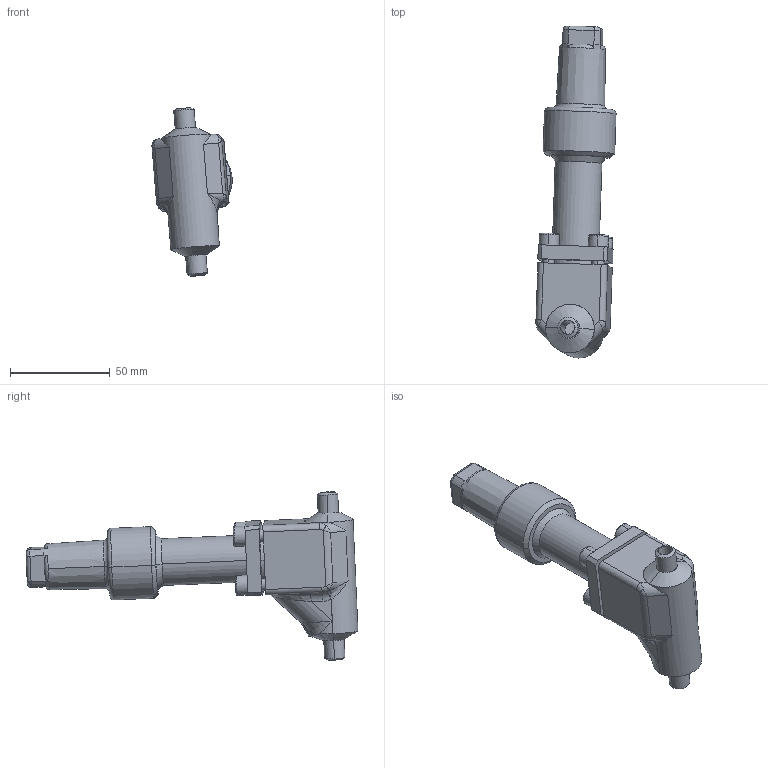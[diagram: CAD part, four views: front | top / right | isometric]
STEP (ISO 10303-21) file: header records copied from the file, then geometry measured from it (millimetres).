
FILE_DESCRIPTION (( 'STEP AP214' ), '1' );
FILE_NAME ('RVAK97300-DN006_R1_PS40.STEP', '2006-05-02T08:32:18', ( 'Herr Grams' ), ( 'AWP GmbH' ), 'SwSTEP 2.0', 'SolidWorks 2002296', '' );
FILE_SCHEMA (( 'AUTOMOTIVE_DESIGN' ));
Length unit declared in the file: millimetre
Products named in the file (6): RVAK97300-DN006_R1_PS40; RVA99300E10_Deck+Schr-DN6-15_Standard; Deckel99300E10-DN6-15_PS40_Standard; Zylinderschraube-DIN912_M 6x 18; Gehäuse96300E06-DN06_PS40_R1_Standard; Kappe96300E10_DN6-20_Standard
Assembly tree (8 placements, depth 3):
  RVAK97300-DN006_R1_PS40
    Kappe96300E10_DN6-20_Standard
    RVA99300E10_Deck+Schr-DN6-15_Standard
      Zylinderschraube-DIN912_M 6x 18  x4
      Deckel99300E10-DN6-15_PS40_Standard
    Gehäuse96300E06-DN06_PS40_R1_Standard
Bounding box: 40.1 x 166.17 x 84.3 mm (x, y, z)
Volume: 117562.8 mm3; surface area: 35889.9 mm2
Topology: 7 solids, 7 shells, 247 faces, 567 edges, 347 vertices
Faces by surface type: cylinder 89, plane 85, cone 29, torus 23, bspline 21
Entity records: 15461 total; most frequent: CARTESIAN_POINT 10526, DIRECTION 896, ORIENTED_EDGE 894, EDGE_CURVE 447, AXIS2_PLACEMENT_3D 367, VERTEX_POINT 275, EDGE_LOOP 218, ADVANCED_FACE 193
